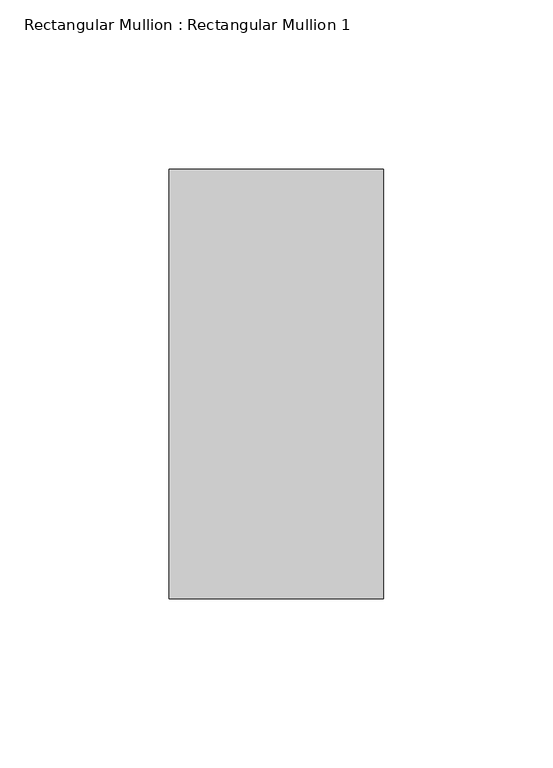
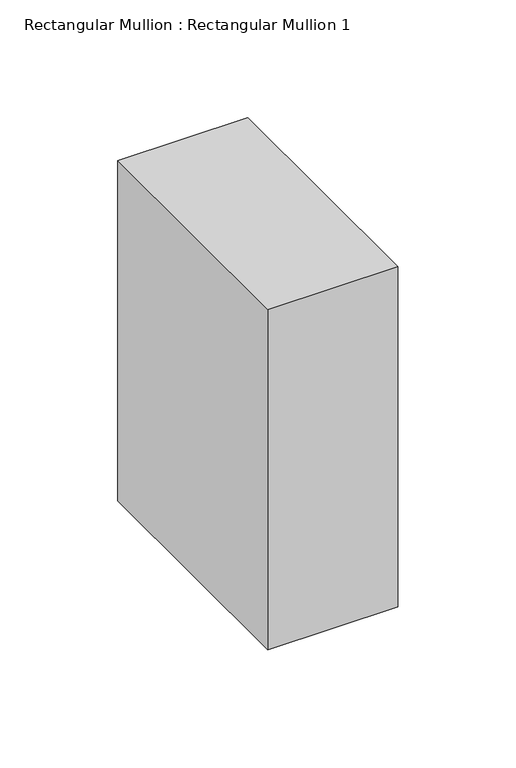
"""IFC4 building model written with IfcOpenShell, lengths in millimetres: member geometry, Rectangular Mullion : Rectangular Mullion 1."""

from ifc_helpers import new_model, si_unit, frame, origin, place, context, project, spatial, polyline, outline, extrude, source, transform, mapped, element, save


def rectangular_mullion_rectangular_mullion_1_ebe90ed8(model_context):
    return source(origin(), model_context, "Body", "SweptSolid", [
        extrude(outline(polyline([(31.75, 63.5), (31.75, -63.5), (-31.75, -63.5), (-31.75, 63.5), (31.75, 63.5)])), frame((0.0, 0.0, -175.976362), z_axis=(0.0, 0.0, 1.0), x_axis=(1.0, 0.0, 0.0)), (0.0, 0.0, 1.0), 175.976362),
    ])


if __name__ == "__main__":
    model = new_model("IFC4")
    model_context = context("Model", 3, world=origin())
    ifc_project = project(units=[si_unit("LENGTHUNIT", "METRE", prefix="MILLI")], contexts=[model_context])
    site = spatial("IfcSite", under=ifc_project)
    building = spatial("IfcBuilding", under=site)
    placement = place(None, origin())
    rectangular_mullion_rectangular_mullion_1_shape = rectangular_mullion_rectangular_mullion_1_ebe90ed8(model_context)
    element("IfcMember", 1, ObjectType="Rectangular Mullion : Rectangular Mullion 1", at=placement, inside=building, context=model_context, shape_type="MappedRepresentation", body=[
        mapped(rectangular_mullion_rectangular_mullion_1_shape, transform((0.0, 0.0, 0.0), x_axis=(1.0, 0.0, 0.0), y_axis=(0.0, 1.0, 0.0), z_axis=(0.0, 0.0, 1.0))),
    ])
    save(model, "model.ifc")
